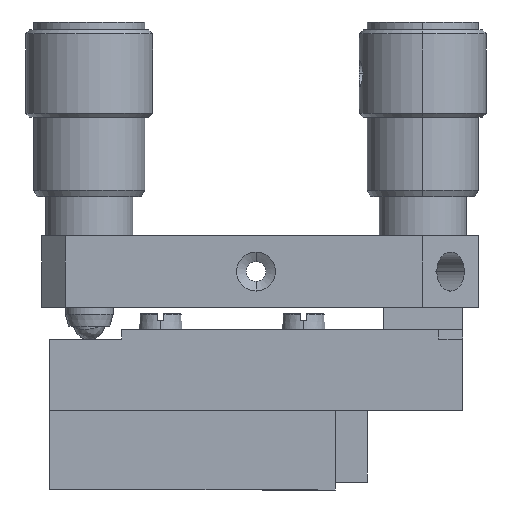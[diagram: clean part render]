
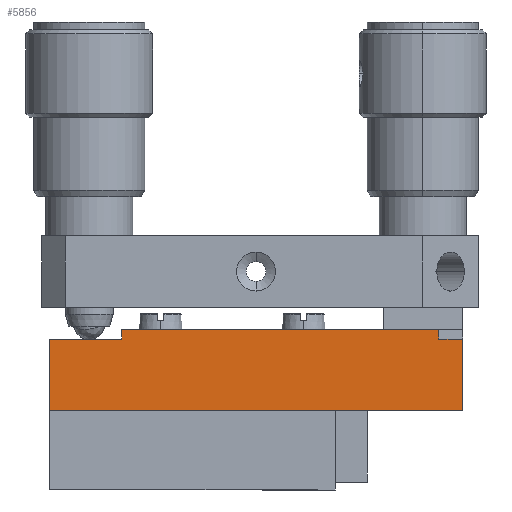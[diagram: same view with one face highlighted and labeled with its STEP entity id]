
A CAD part, left-side view. The second image highlights one B-rep face of the part: STEP entity #5856.
In plain terms, the highlighted planar face has unit normal (-1, 0, 0).
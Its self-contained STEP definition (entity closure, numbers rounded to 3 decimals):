
#4929 = VERTEX_POINT ( 'NONE', #17999 ) ;
#5452 = EDGE_CURVE ( 'NONE', #6466, #6485, #18917, .T. ) ;
#5660 = VERTEX_POINT ( 'NONE', #19225 ) ;
#5725 = VERTEX_POINT ( 'NONE', #19379 ) ;
#5737 = EDGE_CURVE ( 'NONE', #6455, #5660, #19358, .T. ) ;
#5773 = ORIENTED_EDGE ( 'NONE', *, *, #5776, .T. ) ;
#5776 = EDGE_CURVE ( 'NONE', #5660, #5777, #19423, .T. ) ;
#5777 = VERTEX_POINT ( 'NONE', #19484 ) ;
#5798 = ORIENTED_EDGE ( 'NONE', *, *, #5860, .T. ) ;
#5804 = EDGE_LOOP ( 'NONE', ( #5798, #5917, #5867, #5842, #5844, #5815, #5773, #5806 ) ) ;
#5806 = ORIENTED_EDGE ( 'NONE', *, *, #5808, .F. ) ;
#5808 = EDGE_CURVE ( 'NONE', #5725, #5777, #19496, .T. ) ;
#5815 = ORIENTED_EDGE ( 'NONE', *, *, #5737, .T. ) ;
#5842 = ORIENTED_EDGE ( 'NONE', *, *, #5452, .T. ) ;
#5844 = ORIENTED_EDGE ( 'NONE', *, *, #6460, .T. ) ;
#5845 = VERTEX_POINT ( 'NONE', #19560 ) ;
#5856 = ADVANCED_FACE ( 'NONE', ( #19606 ), #19605, .T. ) ;
#5860 = EDGE_CURVE ( 'NONE', #5725, #5845, #19596, .T. ) ;
#5865 = EDGE_CURVE ( 'NONE', #5845, #4929, #19649, .T. ) ;
#5867 = ORIENTED_EDGE ( 'NONE', *, *, #6468, .F. ) ;
#5917 = ORIENTED_EDGE ( 'NONE', *, *, #5865, .T. ) ;
#6455 = VERTEX_POINT ( 'NONE', #20622 ) ;
#6460 = EDGE_CURVE ( 'NONE', #6485, #6455, #20677, .T. ) ;
#6466 = VERTEX_POINT ( 'NONE', #20660 ) ;
#6468 = EDGE_CURVE ( 'NONE', #6466, #4929, #20659, .T. ) ;
#6485 = VERTEX_POINT ( 'NONE', #20688 ) ;
#17999 = CARTESIAN_POINT ( 'NONE',  ( -52.56, 2.567, -28.253 ) ) ;
#18914 = DIRECTION ( 'NONE',  ( 0., 0., -1. ) ) ;
#18915 = VECTOR ( 'NONE', #18914, 1000. ) ;
#18916 = CARTESIAN_POINT ( 'NONE',  ( -52.56, 11.667, -37.253 ) ) ;
#18917 = LINE ( 'NONE', #18916, #18915 ) ;
#19225 = CARTESIAN_POINT ( 'NONE',  ( -52.56, -40.333, -28.253 ) ) ;
#19356 = DIRECTION ( 'NONE',  ( 0., 0., 1. ) ) ;
#19357 = CARTESIAN_POINT ( 'NONE',  ( -52.56, -40.333, -37.253 ) ) ;
#19358 = LINE ( 'NONE', #19357, #19420 ) ;
#19379 = CARTESIAN_POINT ( 'NONE',  ( -52.56, -37.333, -27.053 ) ) ;
#19420 = VECTOR ( 'NONE', #19356, 1000. ) ;
#19421 = VECTOR ( 'NONE', #19485, 1000. ) ;
#19422 = CARTESIAN_POINT ( 'NONE',  ( -52.56, -40.333, -28.253 ) ) ;
#19423 = LINE ( 'NONE', #19422, #19421 ) ;
#19484 = CARTESIAN_POINT ( 'NONE',  ( -52.56, -37.333, -28.253 ) ) ;
#19485 = DIRECTION ( 'NONE',  ( 0., 1., 0. ) ) ;
#19493 = DIRECTION ( 'NONE',  ( 0., 0., -1. ) ) ;
#19494 = VECTOR ( 'NONE', #19493, 1000. ) ;
#19495 = CARTESIAN_POINT ( 'NONE',  ( -52.56, -37.333, -26.603 ) ) ;
#19496 = LINE ( 'NONE', #19495, #19494 ) ;
#19560 = CARTESIAN_POINT ( 'NONE',  ( -52.56, 2.567, -27.053 ) ) ;
#19593 = DIRECTION ( 'NONE',  ( 0., 1., 0. ) ) ;
#19594 = VECTOR ( 'NONE', #19593, 1000. ) ;
#19595 = CARTESIAN_POINT ( 'NONE',  ( -52.56, -40.333, -27.053 ) ) ;
#19596 = LINE ( 'NONE', #19595, #19594 ) ;
#19601 = DIRECTION ( 'NONE',  ( 0., -1., 0. ) ) ;
#19602 = DIRECTION ( 'NONE',  ( -1., 0., 0. ) ) ;
#19603 = CARTESIAN_POINT ( 'NONE',  ( -52.56, -40.333, -37.253 ) ) ;
#19604 = AXIS2_PLACEMENT_3D ( 'NONE', #19603, #19602, #19601 ) ;
#19605 = PLANE ( 'NONE',  #19604 ) ;
#19606 = FACE_OUTER_BOUND ( 'NONE', #5804, .T. ) ;
#19646 = DIRECTION ( 'NONE',  ( 0., 0., -1. ) ) ;
#19647 = VECTOR ( 'NONE', #19646, 1000. ) ;
#19648 = CARTESIAN_POINT ( 'NONE',  ( -52.56, 2.567, -37.253 ) ) ;
#19649 = LINE ( 'NONE', #19648, #19647 ) ;
#20622 = CARTESIAN_POINT ( 'NONE',  ( -52.56, -40.333, -37.253 ) ) ;
#20656 = DIRECTION ( 'NONE',  ( 0., -1., 0. ) ) ;
#20657 = VECTOR ( 'NONE', #20656, 1000. ) ;
#20658 = CARTESIAN_POINT ( 'NONE',  ( -52.56, -19.848, -28.253 ) ) ;
#20659 = LINE ( 'NONE', #20658, #20657 ) ;
#20660 = CARTESIAN_POINT ( 'NONE',  ( -52.56, 11.667, -28.253 ) ) ;
#20674 = DIRECTION ( 'NONE',  ( 0., -1., 0. ) ) ;
#20675 = VECTOR ( 'NONE', #20674, 1000. ) ;
#20676 = CARTESIAN_POINT ( 'NONE',  ( -52.56, -40.333, -37.253 ) ) ;
#20677 = LINE ( 'NONE', #20676, #20675 ) ;
#20688 = CARTESIAN_POINT ( 'NONE',  ( -52.56, 11.667, -37.253 ) ) ;
